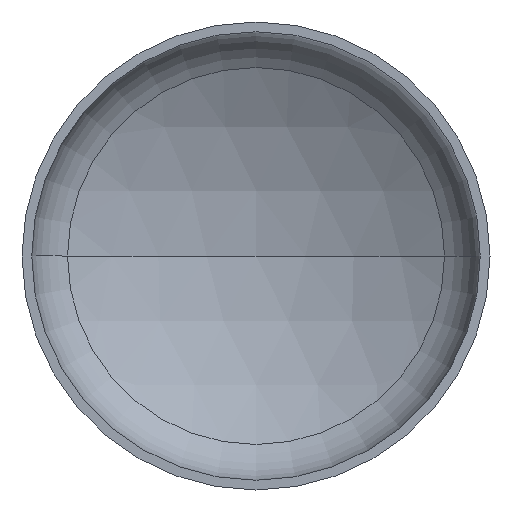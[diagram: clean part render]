
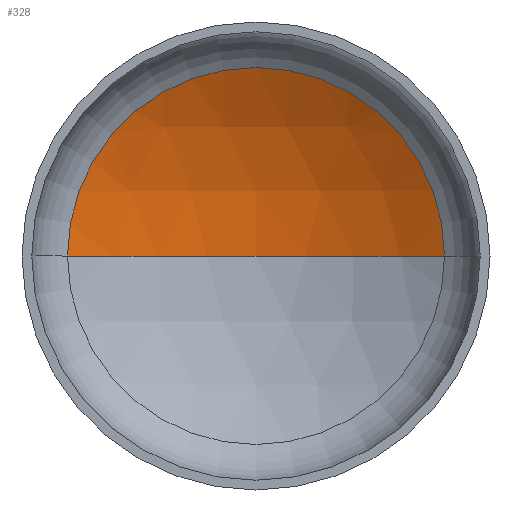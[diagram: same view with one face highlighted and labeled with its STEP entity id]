
A CAD part, front view. The second image highlights one B-rep face of the part: STEP entity #328.
In plain terms, the highlighted spherical face has radius 4000 mm.
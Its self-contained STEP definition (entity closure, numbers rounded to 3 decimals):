
#7 = DIRECTION ( 'NONE',  ( 0., 0., -1. ) ) ;
#11 = DIRECTION ( 'NONE',  ( 0., 0., 1. ) ) ;
#12 = EDGE_LOOP ( 'NONE', ( #101, #40, #363 ) ) ;
#13 = AXIS2_PLACEMENT_3D ( 'NONE', #167, #124, #166 ) ;
#31 = AXIS2_PLACEMENT_3D ( 'NONE', #290, #11, #314 ) ;
#35 = AXIS2_PLACEMENT_3D ( 'NONE', #319, #7, #150 ) ;
#38 = AXIS2_PLACEMENT_3D ( 'NONE', #198, #199, #202 ) ;
#40 = ORIENTED_EDGE ( 'NONE', *, *, #94, .T. ) ;
#55 = VERTEX_POINT ( 'NONE', #247 ) ;
#81 = FACE_OUTER_BOUND ( 'NONE', #12, .T. ) ;
#92 = EDGE_CURVE ( 'NONE', #55, #114, #398, .T. ) ;
#94 = EDGE_CURVE ( 'NONE', #154, #55, #281, .T. ) ;
#96 = EDGE_CURVE ( 'NONE', #154, #114, #221, .T. ) ;
#101 = ORIENTED_EDGE ( 'NONE', *, *, #96, .F. ) ;
#114 = VERTEX_POINT ( 'NONE', #365 ) ;
#124 = DIRECTION ( 'NONE',  ( 0., 0., -1. ) ) ;
#150 = DIRECTION ( 'NONE',  ( -1., 0., 0. ) ) ;
#154 = VERTEX_POINT ( 'NONE', #248 ) ;
#166 = DIRECTION ( 'NONE',  ( -1., 0., 0. ) ) ;
#167 = CARTESIAN_POINT ( 'NONE',  ( 0., -2715.882, 0. ) ) ;
#198 = CARTESIAN_POINT ( 'NONE',  ( 0., 740.319, 0. ) ) ;
#199 = DIRECTION ( 'NONE',  ( 0., -1., 0. ) ) ;
#202 = DIRECTION ( 'NONE',  ( 1., 0., 0. ) ) ;
#221 = CIRCLE ( 'NONE', #31, 4000. ) ;
#247 = CARTESIAN_POINT ( 'NONE',  ( 2013.622, 740.319, 0. ) ) ;
#248 = CARTESIAN_POINT ( 'NONE',  ( 0., 1284.118, 0. ) ) ;
#281 = CIRCLE ( 'NONE', #35, 4000. ) ;
#290 = CARTESIAN_POINT ( 'NONE',  ( 0., -2715.882, 0. ) ) ;
#313 = SPHERICAL_SURFACE ( 'NONE', #13, 4000. ) ;
#314 = DIRECTION ( 'NONE',  ( 1., 0., 0. ) ) ;
#319 = CARTESIAN_POINT ( 'NONE',  ( 0., -2715.882, 0. ) ) ;
#328 = ADVANCED_FACE ( 'NONE', ( #81 ), #313, .F. ) ;
#363 = ORIENTED_EDGE ( 'NONE', *, *, #92, .T. ) ;
#365 = CARTESIAN_POINT ( 'NONE',  ( -2013.622, 740.319, 0. ) ) ;
#398 = CIRCLE ( 'NONE', #38, 2013.622 ) ;
